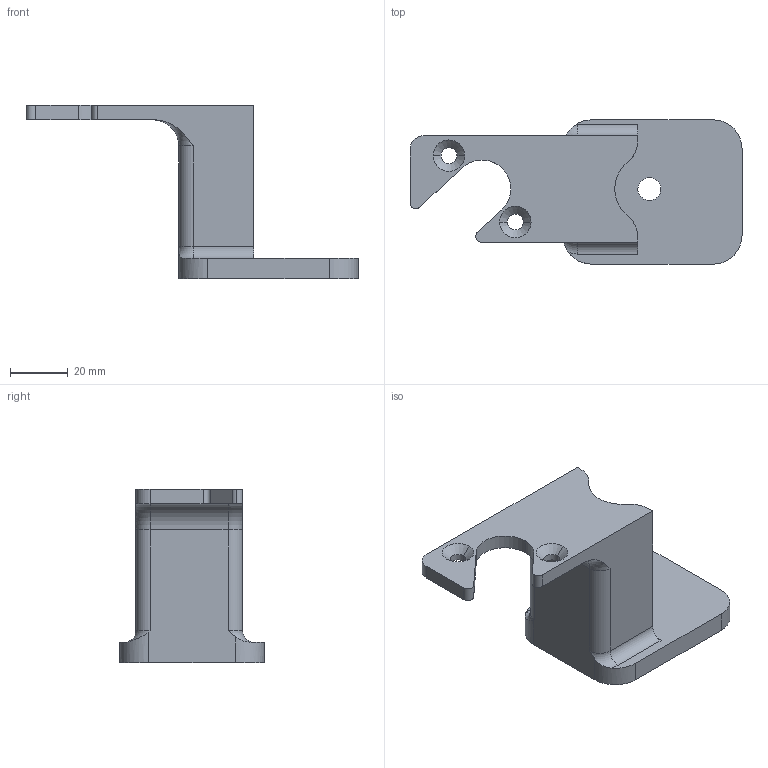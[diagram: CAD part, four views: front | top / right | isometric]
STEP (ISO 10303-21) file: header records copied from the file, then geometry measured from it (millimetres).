
FILE_DESCRIPTION (( 'STEP AP203' ), '1' );
FILE_NAME ('nosilec_was_v2.STEP', '2024-12-08T09:48:42', ( '' ), ( '' ), 'SwSTEP 2.0', 'SolidWorks 2023', '' );
FILE_SCHEMA (( 'CONFIG_CONTROL_DESIGN' ));
Length unit declared in the file: millimetre
Products named in the file (1): nosilec_was_v2
Bounding box: 115.09 x 50 x 60 mm (x, y, z)
Volume: 70682.1 mm3; surface area: 17436.7 mm2
Topology: 1 solids, 1 shells, 47 faces, 127 edges, 82 vertices
Faces by surface type: cylinder 24, plane 15, cone 4, torus 4
Entity records: 1640 total; most frequent: CARTESIAN_POINT 327, DIRECTION 273, ORIENTED_EDGE 254, EDGE_CURVE 127, AXIS2_PLACEMENT_3D 104, VERTEX_POINT 82, VECTOR 65, LINE 65
